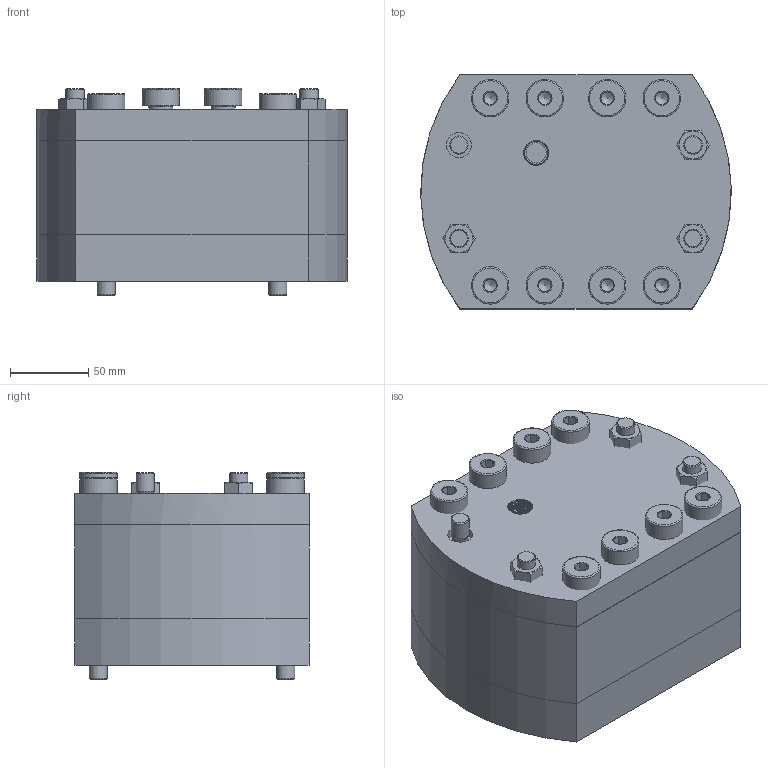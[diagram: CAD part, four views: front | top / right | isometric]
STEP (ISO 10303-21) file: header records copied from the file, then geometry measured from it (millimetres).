
FILE_DESCRIPTION( (''), '2;1');
FILE_NAME( 'QZKB_250L_M32.step', '2024-05-23T16:04:29+08:00', (''), (''), '', '', '');
FILE_SCHEMA (('AUTOMOTIVE_DESIGN { 1 0 10303 214 3 1 1 1 }'));
Length unit declared in the file: millimetre
Products named in the file (1): QZKB 250L_M32
Bounding box: 199 x 150 x 132.79 mm (x, y, z)
Volume: 2994682.5 mm3; surface area: 480095.9 mm2
Topology: 19 solids, 19 shells, 673 faces, 1429 edges, 846 vertices
Faces by surface type: plane 264, cone 188, cylinder 175, torus 36, bspline 8, extrusion 2
Full cylindrical faces by diameter (mm): 8 x16, 9.57 x12, 10.782 x3, 11.701 x12, 12 x6, 13 x2, 15 x6, 15.42 x12, 16 x60, 24 x12, 25 x6, 26 x4, 30 x2, 42 x2
Entity records: 24889 total; most frequent: CARTESIAN_POINT 11697, DIRECTION 2818, ORIENTED_EDGE 2108, AXIS2_PLACEMENT_3D 1267, EDGE_LOOP 1106, EDGE_CURVE 1054, FACE_BOUND 812, VERTEX_POINT 776
